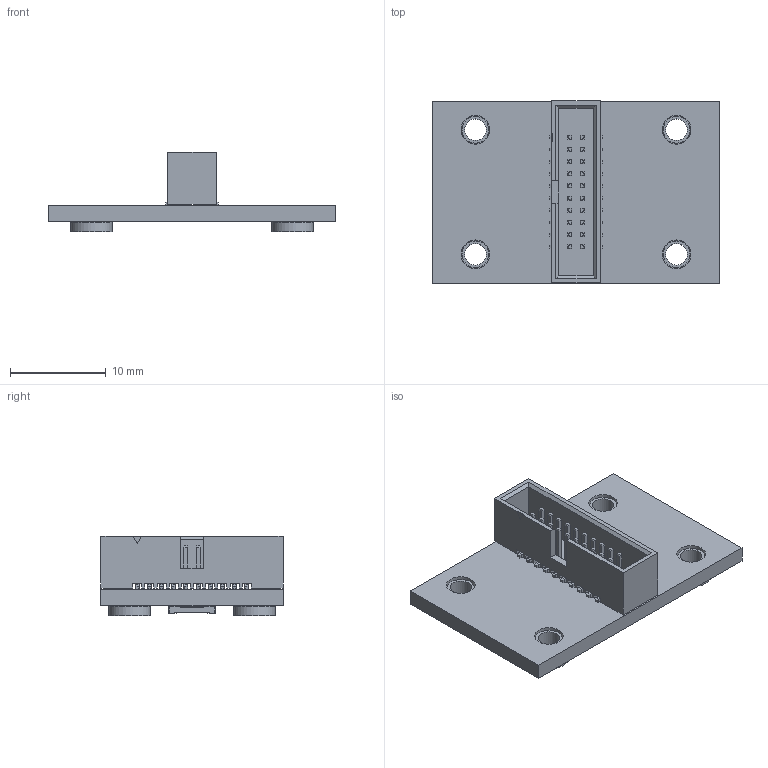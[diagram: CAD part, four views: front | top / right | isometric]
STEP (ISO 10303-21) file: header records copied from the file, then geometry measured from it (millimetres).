
FILE_DESCRIPTION(('Open CASCADE Model'),'2;1');
FILE_NAME('Open CASCADE Shape Model','2023-02-20T13:39:58',('Author'),( 'Open CASCADE'),'Open CASCADE STEP processor 6.8','Open CASCADE 6.8' ,'Unknown');
FILE_SCHEMA(('AUTOMOTIVE_DESIGN { 1 0 10303 214 1 1 1 1 }'));
Length unit declared in the file: millimetre
Products named in the file (13): PCB; Board; Open CASCADE STEP translator 6.8 4.1.1; P2; 20021521-00020C4LF--3DModel-STEP-554624; M4; 9774010943_(rev1); M3; M1; M2; P1; 101R014FB110; BW94_SERIES
Assembly tree (15 placements, depth 4):
  PCB
    Board
      Open CASCADE STEP translator 6.8 4.1.1
    P2
      20021521-00020C4LF--3DModel-STEP-554624
    M4
      9774010943_(rev1)
    M3
      9774010943_(rev1)
    M1
      9774010943_(rev1)
    M2
      9774010943_(rev1)
    P1
      101R014FB110
        BW94_SERIES
Bounding box: 30 x 19 x 8.28 mm (x, y, z)
Volume: 1182.3 mm3; surface area: 2499.3 mm2
Topology: 28 solids, 28 shells, 1815 faces, 4617 edges, 2886 vertices
Faces by surface type: plane 1355, cylinder 392, cone 40, torus 28
Full cylindrical faces by diameter (mm): 2.25 x4, 2.8 x4, 3 x4, 4.35 x4
Entity records: 65092 total; most frequent: CARTESIAN_POINT 9470, ORIENTED_EDGE 9180, DIRECTION 9071, EDGE_CURVE 4590, LINE 3673, VECTOR 3673, VERTEX_POINT 2868, AXIS2_PLACEMENT_3D 2699
